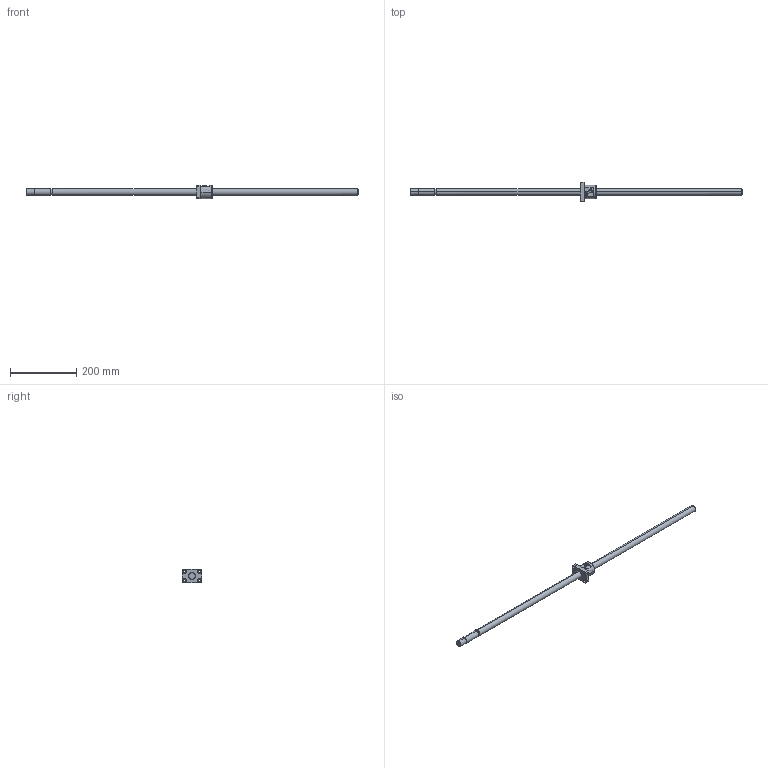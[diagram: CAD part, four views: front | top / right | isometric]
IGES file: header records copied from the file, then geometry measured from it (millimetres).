
Global section: file name: No Iges File Name specified; native system: AutoDesk Inventor R10; preprocessor: AutoDesk Inventor Iges Exporter R10; author: No Author specified; organization: No Organization specified; date: 20101224.141317; units: millimetre
Bounding box: 1005 x 60 x 40 mm (x, y, z)
Surface area: 79478.5 mm2 (no closed solid volume)
Topology: 0 solids, 0 shells, 133 faces, 976 edges, 976 vertices
Faces by surface type: bspline 133
